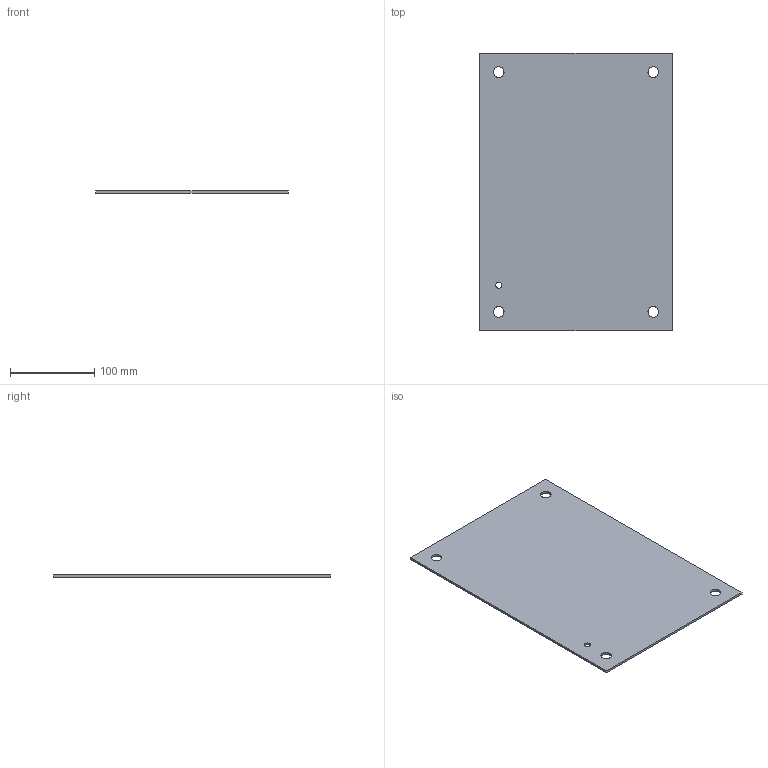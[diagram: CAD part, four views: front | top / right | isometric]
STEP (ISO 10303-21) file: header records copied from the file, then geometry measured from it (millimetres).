
FILE_DESCRIPTION((''),'1');
FILE_NAME('2','2001-04-18T',('jlue'),(''),'PRO/ENGINEER BY PARAMETRIC TECHNOLOGY CORPORATION, 9846','PRO/ENGINEER BY PARAMETRIC TECHNOLOGY CORPORATION, 9846','');
FILE_SCHEMA(('CONFIG_CONTROL_DESIGN'));
Length unit declared in the file: inch
Products named in the file (1): 2
Bounding box: 228.6 x 330.2 x 2.66 mm (x, y, z)
Surface area: 153327.2 mm2 (no closed solid volume)
Topology: 0 solids, 0 shells, 16 faces, 89 edges, 94 vertices
Faces by surface type: cylinder 10, plane 6
Entity records: 507 total; most frequent: DIRECTION 99, COMPOSITE_CURVE_SEGMENT 84, CARTESIAN_POINT 63, TRIMMED_CURVE 47, AXIS2_PLACEMENT_3D 36, VECTOR 27, LINE 27, CIRCLE 20
